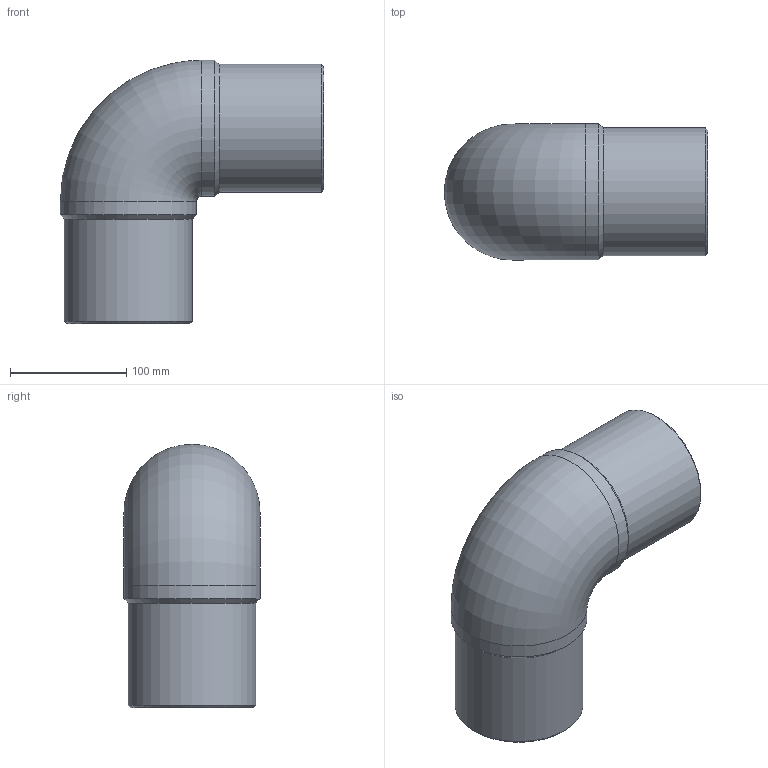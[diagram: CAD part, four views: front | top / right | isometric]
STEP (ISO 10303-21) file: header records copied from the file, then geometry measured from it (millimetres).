
FILE_DESCRIPTION(/* description */ ('Unknown'),/* implementation_level */ '2;1');
FILE_NAME(/* name */ 'G9P110G',/* time_stamp */ '2021-06-22T10:59:53+02:00',/* author */ ('Unknown'),/* organization */ ('Unknown'),/* preprocessor_version */ 'ST-DEVELOPER v16.7',/* originating_system */ 'Solid Edge',/* authorisation */ 'Unknown');
FILE_SCHEMA (('AUTOMOTIVE_DESIGN {1 0 10303 214 3 1 1}'));
Length unit declared in the file: millimetre
Products named in the file (1): G9P110G
Bounding box: 226.5 x 117 x 226.5 mm (x, y, z)
Volume: 1338804.7 mm3; surface area: 200534.3 mm2
Topology: 1 solids, 1 shells, 14 faces, 34 edges, 22 vertices
Faces by surface type: cylinder 6, cone 4, torus 2, plane 2
Full cylindrical faces by diameter (mm): 85.4 x2, 110 x2, 117 x2
Entity records: 376 total; most frequent: CARTESIAN_POINT 76, DIRECTION 60, ORIENTED_EDGE 38, AXIS2_PLACEMENT_3D 30, EDGE_LOOP 27, FACE_BOUND 27, EDGE_CURVE 19, VERTEX_POINT 18
